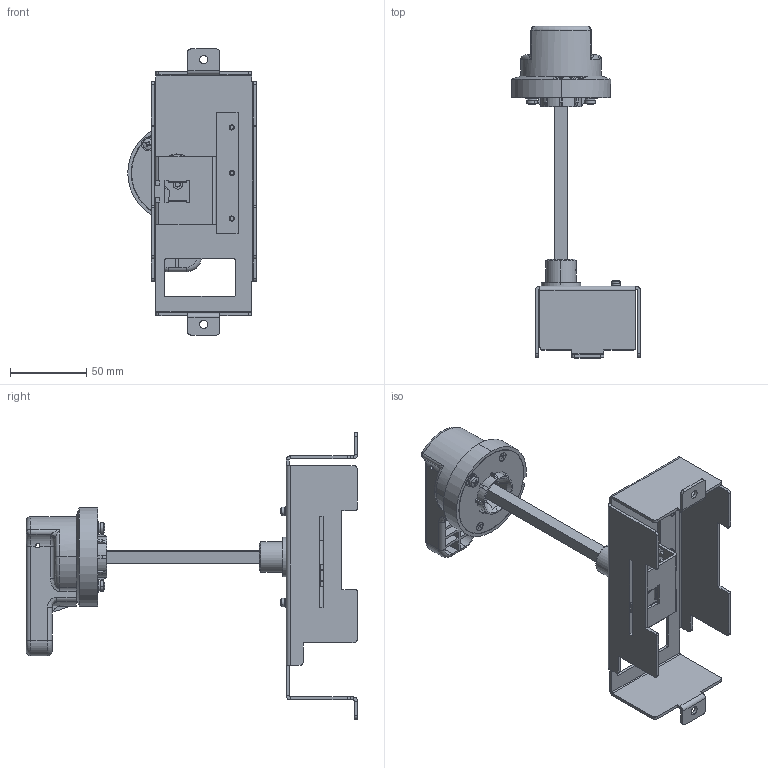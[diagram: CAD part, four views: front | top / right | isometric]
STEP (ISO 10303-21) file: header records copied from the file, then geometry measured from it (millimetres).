
FILE_DESCRIPTION (( 'STEP AP203' ), '1' );
FILE_NAME ('M5-250V-Z1A.STEP', '2024-10-21T07:04:56', ( 'A' ), ( '' ), 'SwSTEP 2.0', 'SolidWorks 2018', '' );
FILE_SCHEMA (( 'CONFIG_CONTROL_DESIGN' ));
Products named in the file (1): M5-250V-Z1A
Bounding box: 84.5 x 218 x 188 mm (x, y, z)
Surface area: 130166 mm2 (no closed solid volume)
Topology: 0 solids, 35 shells, 1526 faces, 4365 edges, 2869 vertices
Faces by surface type: plane 675, cylinder 553, bspline 171, cone 68, sphere 35, torus 24
Entity records: 66240 total; most frequent: CARTESIAN_POINT 27991, ORIENTED_EDGE 8285, DIRECTION 7374, EDGE_CURVE 4334, VERTEX_POINT 2859, AXIS2_PLACEMENT_3D 2532, LINE 2310, VECTOR 2310
